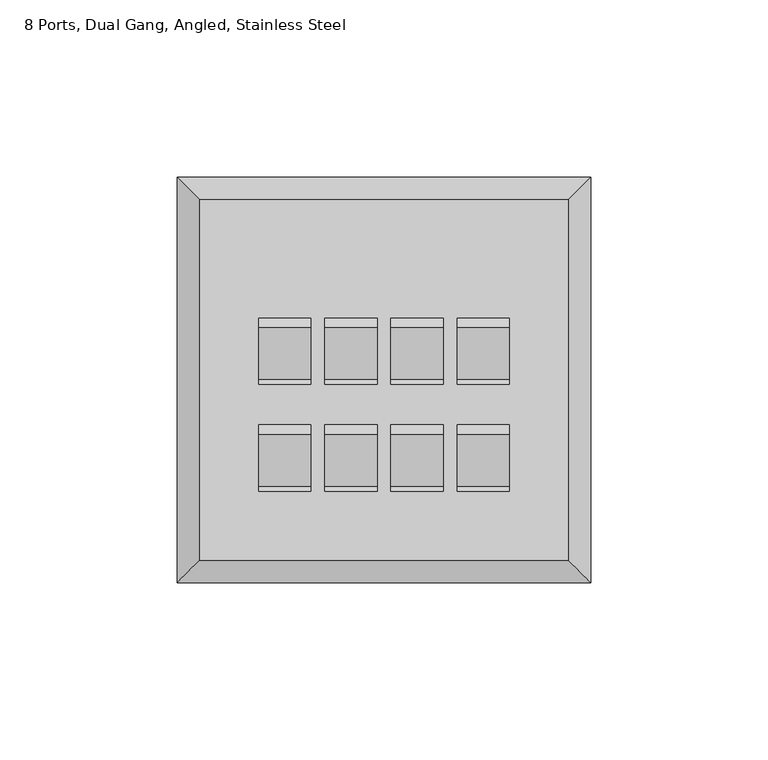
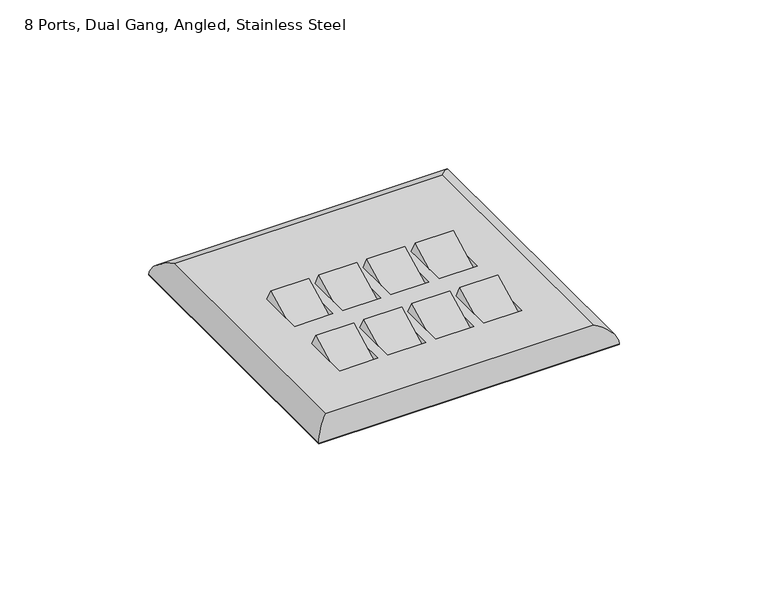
"""IFC4 building model written with IfcOpenShell, lengths in millimetres: electric appliance geometry, Data_Device-Work_Area-Leviton-QuickPort-Wallplate : 8 Ports, Dual Gang, Angled, Stainless Steel."""

from ifc_helpers import new_model, si_unit, frame, origin, origin_with_axes, place, context, project, spatial, polyline, ellipse_curve, outline, extrude, source, transform, mapped, element, save
from ifc_brep_helpers import plane_surface, cylinder_surface, advanced_brep


def electric_appliance_8_ports_dual_gang_angled_stainless_steel_fa04e0a8(model_context):
    return source(origin(), model_context, "Body", "SolidModel", [
        extrude(outline(polyline([(0.0, -16.51), (0.0, 0.0), (14.732, 0.0), (14.732, -16.51), (0.0, -16.51)])), frame((12.3444, -18.8557048, -2.12579), z_axis=(0.0, -0.4558553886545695, 0.8900538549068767), x_axis=(-1.0, 0.0, 0.0)), (0.0, 0.0, 1.0), 6.35),
        extrude(outline(polyline([(0.0, -16.51), (0.0, 0.0), (14.732, 0.0), (14.732, -16.51), (0.0, -16.51)])), frame((12.3444, 11.2505157, -2.12579), z_axis=(0.0, -0.4558553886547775, 0.8900538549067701), x_axis=(-1.0, 0.0, 0.0)), (0.0, 0.0, 1.0), 6.35),
        extrude(outline(polyline([(70.739, 0.0), (70.739, -16.51), (56.007, -16.51), (56.007, 0.0), (70.739, 0.0)])), frame((12.3444, -18.8557048, -2.12579), z_axis=(0.0, -0.4558553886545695, 0.8900538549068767), x_axis=(-1.0, 0.0, 0.0)), (0.0, 0.0, 1.0), 6.35),
        extrude(outline(polyline([(70.739, 0.0), (70.739, -16.51), (56.007, -16.51), (56.007, 0.0), (70.739, 0.0)])), frame((12.3444, 11.2505157, -2.12579), z_axis=(0.0, -0.4558553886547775, 0.8900538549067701), x_axis=(-1.0, 0.0, 0.0)), (0.0, 0.0, 1.0), 6.35),
        extrude(outline(polyline([(33.401, -16.51), (18.669, -16.51), (18.669, 0.0), (33.401, 0.0), (33.401, -16.51)])), frame((12.3444, -18.8557048, -2.12579), z_axis=(0.0, -0.4558553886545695, 0.8900538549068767), x_axis=(-1.0, 0.0, 0.0)), (0.0, 0.0, 1.0), 6.35),
        extrude(outline(polyline([(52.07, -16.51), (37.338, -16.51), (37.338, 0.0), (52.07, 0.0), (52.07, -16.51)])), frame((12.3444, -18.8557048, -2.12579), z_axis=(0.0, -0.4558553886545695, 0.8900538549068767), x_axis=(-1.0, 0.0, 0.0)), (0.0, 0.0, 1.0), 6.35),
        extrude(outline(polyline([(33.401, -16.51), (18.669, -16.51), (18.669, 0.0), (33.401, 0.0), (33.401, -16.51)])), frame((12.3444, 11.2505157, -2.12579), z_axis=(0.0, -0.4558553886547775, 0.8900538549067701), x_axis=(-1.0, 0.0, 0.0)), (0.0, 0.0, 1.0), 6.35),
        extrude(outline(polyline([(52.07, -16.51), (37.338, -16.51), (37.338, 0.0), (52.07, 0.0), (52.07, -16.51)])), frame((12.3444, 11.2505157, -2.12579), z_axis=(0.0, -0.4558553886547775, 0.8900538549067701), x_axis=(-1.0, 0.0, 0.0)), (0.0, 0.0, 1.0), 6.35),
        advanced_brep(
        [(28.9179, -42.6085, 6.35), (28.9179, 58.9915, 6.35), (-74.9681, 58.9915, 6.35), (-74.9681, -42.6085, 6.35), (-6.3246, -4.6472775, 6.35), (-6.3246, -23.1967169, 6.35), (-21.0566, -23.1967169, 6.35), (-21.0566, -4.6472775, 6.35), (-24.9936, -4.6472775, 6.35), (-24.9936, -23.1967169, 6.35), (-39.7256, -23.1967169, 6.35), (-39.7256, -4.6472775, 6.35), (-6.3246, 25.458943, 6.35), (-6.3246, 6.9095036, 6.35), (-21.0566, 6.9095036, 6.35), (-21.0566, 25.458943, 6.35), (-24.9936, 25.458943, 6.35), (-24.9936, 6.9095036, 6.35), (-39.7256, 6.9095036, 6.35), (-39.7256, 25.458943, 6.35), (12.3444, -4.6472775, 6.35), (12.3444, -23.1967169, 6.35), (-2.3876, -23.1967169, 6.35), (-2.3876, -4.6472775, 6.35), (-43.6626, -4.6472775, 6.35), (-43.6626, -23.1967169, 6.35), (-58.3946, -23.1967169, 6.35), (-58.3946, -4.6472775, 6.35), (12.3444, 25.458943, 6.35), (12.3444, 6.9095036, 6.35), (-2.3876, 6.9095036, 6.35), (-2.3876, 25.458943, 6.35), (-43.6626, 25.458943, 6.35), (-43.6626, 6.9095036, 6.35), (-58.3946, 6.9095036, 6.35), (-58.3946, 25.458943, 6.35), (35.2679, 65.3415, 0.0), (35.2679, -48.9585, 0.0), (-81.3181, -48.9585, 0.0), (-81.3181, 65.3415, 0.0), (-6.3246, -19.9444623, 0.0), (-6.3246, -1.3950229, 0.0), (-21.0566, -1.3950229, 0.0), (-21.0566, -19.9444623, 0.0), (-24.9936, -19.9444623, 0.0), (-24.9936, -1.3950229, 0.0), (-39.7256, -1.3950229, 0.0), (-39.7256, -19.9444623, 0.0), (-6.3246, 10.1617582, 0.0), (-6.3246, 28.7111975, 0.0), (-21.0566, 28.7111975, 0.0), (-21.0566, 10.1617582, 0.0), (-24.9936, 10.1617582, 0.0), (-24.9936, 28.7111975, 0.0), (-39.7256, 28.7111975, 0.0), (-39.7256, 10.1617582, 0.0), (12.3444, -19.9444623, 0.0), (12.3444, -1.3950229, 0.0), (-2.3876, -1.3950229, 0.0), (-2.3876, -19.9444623, 0.0), (-43.6626, -19.9444623, 0.0), (-43.6626, -1.3950229, 0.0), (-58.3946, -1.3950229, 0.0), (-58.3946, -19.9444623, 0.0), (12.3444, 10.1617582, 0.0), (12.3444, 28.7111975, 0.0), (-2.3876, 28.7111975, 0.0), (-2.3876, 10.1617582, 0.0), (-43.6626, 10.1617582, 0.0), (-43.6626, 28.7111975, 0.0), (-58.3946, 28.7111975, 0.0), (-58.3946, 10.1617582, 0.0), (-81.3181, 65.3415, 0.254), (35.2679, 65.3415, 0.254), (-81.3181, -48.9585, 0.254), (35.2679, -48.9585, 0.254)],
        [
            (0, 1),
            (1, 2),
            (2, 3),
            (3, 0),
            (4, 5),
            (5, 6),
            (6, 7),
            (7, 4),
            (8, 9),
            (9, 10),
            (10, 11),
            (11, 8),
            (12, 13),
            (13, 14),
            (14, 15),
            (15, 12),
            (16, 17),
            (17, 18),
            (18, 19),
            (19, 16),
            (20, 21),
            (21, 22),
            (22, 23),
            (23, 20),
            (24, 25),
            (25, 26),
            (26, 27),
            (27, 24),
            (28, 29),
            (29, 30),
            (30, 31),
            (31, 28),
            (32, 33),
            (33, 34),
            (34, 35),
            (35, 32),
            (36, 37),
            (37, 38),
            (38, 39),
            (39, 36),
            (40, 41),
            (41, 42),
            (42, 43),
            (43, 40),
            (44, 45),
            (45, 46),
            (46, 47),
            (47, 44),
            (48, 49),
            (49, 50),
            (50, 51),
            (51, 48),
            (52, 53),
            (53, 54),
            (54, 55),
            (55, 52),
            (56, 57),
            (57, 58),
            (58, 59),
            (59, 56),
            (60, 61),
            (61, 62),
            (62, 63),
            (63, 60),
            (64, 65),
            (65, 66),
            (66, 67),
            (67, 64),
            (68, 69),
            (69, 70),
            (70, 71),
            (71, 68),
            (39, 72),
            (72, 73),
            (73, 36),
            (38, 74),
            (74, 72),
            (37, 75),
            (75, 74),
            (73, 75),
            (4, 41),
            (40, 5),
            (43, 6),
            (42, 7),
            (8, 45),
            (44, 9),
            (47, 10),
            (46, 11),
            (12, 49),
            (48, 13),
            (51, 14),
            (50, 15),
            (16, 53),
            (52, 17),
            (55, 18),
            (54, 19),
            (0, 75, ellipse_curve(frame((28.9179, -42.6085, -0.0052917), z_axis=(0.7071067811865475, 0.7071067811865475, 0.0), x_axis=(0.7071067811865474, -0.7071067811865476, 0.0)), 8.9877397, 6.3552917)),
            (73, 1, ellipse_curve(frame((28.9179, 58.9915, -0.0052917), z_axis=(0.7071067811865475, -0.7071067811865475, 0.0), x_axis=(-0.7071067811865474, -0.7071067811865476, 0.0)), 8.9877397, 6.3552917)),
            (3, 74, ellipse_curve(frame((-74.9681, -42.6085, -0.0052917), z_axis=(0.7071067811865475, -0.7071067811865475, 0.0), x_axis=(-0.7071067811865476, -0.7071067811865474, 0.0)), 8.9877397, 6.3552917)),
            (2, 72, ellipse_curve(frame((-74.9681, 58.9915, -0.0052917), z_axis=(-0.7071067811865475, -0.7071067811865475, 0.0), x_axis=(-0.7071067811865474, 0.7071067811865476, 0.0)), 8.9877397, 6.3552917)),
            (20, 57),
            (56, 21),
            (59, 22),
            (58, 23),
            (24, 61),
            (60, 25),
            (63, 26),
            (62, 27),
            (28, 65),
            (64, 29),
            (67, 30),
            (66, 31),
            (32, 69),
            (68, 33),
            (71, 34),
            (70, 35),
        ],
        [
            plane_surface(frame((-81.3181, 65.3415, 6.35), z_axis=(0.0, 0.0, 1.0), x_axis=(-1.0, 0.0, 0.0))),
            plane_surface(frame((-81.3181, 65.3415, 0.0), z_axis=(0.0, 0.0, -1.0), x_axis=(1.0, 0.0, 0.0))),
            plane_surface(frame((35.2679, 65.3415, 6.35), z_axis=(0.0, 1.0, 0.0), x_axis=(0.0, 0.0, -1.0))),
            plane_surface(frame((-81.3181, 65.3415, 6.35), z_axis=(-1.0, 0.0, 0.0), x_axis=(0.0, 0.0, -1.0))),
            plane_surface(frame((-81.3181, -48.9585, 6.35), z_axis=(0.0, -1.0, 0.0), x_axis=(0.0, 0.0, -1.0))),
            plane_surface(frame((35.2679, -48.9585, 6.35), z_axis=(1.0, 0.0, 0.0), x_axis=(0.0, 0.0, -1.0))),
            plane_surface(frame((-6.3246, -0.1083612, -2.5121963), z_axis=(-1.0, 0.0, 0.0), x_axis=(0.0, -0.45585538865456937, 0.8900538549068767))),
            plane_surface(frame((-6.3246, -14.8031504, -10.0383688), z_axis=(0.0, 0.8900538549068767, 0.4558553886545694), x_axis=(0.0, -0.4558553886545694, 0.8900538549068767))),
            plane_surface(frame((-21.0566, -14.8031504, -10.0383688), z_axis=(1.0, 0.0, 0.0), x_axis=(0.0, -0.4558553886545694, 0.8900538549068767))),
            plane_surface(frame((-21.0566, -0.1083612, -2.5121963), z_axis=(0.0, -0.8900538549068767, -0.45585538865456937), x_axis=(0.0, -0.45585538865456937, 0.8900538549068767))),
            plane_surface(frame((-24.9936, -0.1083612, -2.5121963), z_axis=(-1.0, 0.0, 0.0), x_axis=(0.0, -0.45585538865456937, 0.8900538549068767))),
            plane_surface(frame((-24.9936, -14.8031504, -10.0383688), z_axis=(0.0, 0.8900538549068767, 0.4558553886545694), x_axis=(0.0, -0.4558553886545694, 0.8900538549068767))),
            plane_surface(frame((-39.7256, -14.8031504, -10.0383688), z_axis=(1.0, 0.0, 0.0), x_axis=(0.0, -0.4558553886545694, 0.8900538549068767))),
            plane_surface(frame((-39.7256, -0.1083612, -2.5121963), z_axis=(0.0, -0.8900538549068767, -0.45585538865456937), x_axis=(0.0, -0.45585538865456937, 0.8900538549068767))),
            plane_surface(frame((-6.3246, 29.9978593, -2.5121963), z_axis=(-1.0, 0.0, 0.0), x_axis=(0.0, -0.45585538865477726, 0.8900538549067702))),
            plane_surface(frame((-6.3246, 15.3030701, -10.0383688), z_axis=(0.0, 0.8900538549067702, 0.45585538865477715), x_axis=(0.0, -0.45585538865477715, 0.8900538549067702))),
            plane_surface(frame((-21.0566, 15.3030701, -10.0383688), z_axis=(1.0, 0.0, 0.0), x_axis=(0.0, -0.45585538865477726, 0.8900538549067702))),
            plane_surface(frame((-21.0566, 29.9978593, -2.5121963), z_axis=(0.0, -0.8900538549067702, -0.45585538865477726), x_axis=(0.0, -0.45585538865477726, 0.8900538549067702))),
            plane_surface(frame((-24.9936, 29.9978593, -2.5121963), z_axis=(-1.0, 0.0, 0.0), x_axis=(0.0, -0.45585538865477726, 0.8900538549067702))),
            plane_surface(frame((-24.9936, 15.3030701, -10.0383688), z_axis=(0.0, 0.8900538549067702, 0.45585538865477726), x_axis=(0.0, -0.45585538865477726, 0.8900538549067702))),
            plane_surface(frame((-39.7256, 15.3030701, -10.0383688), z_axis=(1.0, 0.0, 0.0), x_axis=(0.0, -0.45585538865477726, 0.8900538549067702))),
            plane_surface(frame((-39.7256, 29.9978593, -2.5121963), z_axis=(0.0, -0.8900538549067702, -0.45585538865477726), x_axis=(0.0, -0.45585538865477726, 0.8900538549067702))),
            cylinder_surface(frame((28.9179, 65.3415, -0.0052917), z_axis=(0.0, -1.0, 0.0), x_axis=(1.0, 0.0, 0.0)), 6.3552917),
            cylinder_surface(frame((35.2679, -42.6085, -0.0052917), z_axis=(-1.0, 0.0, 0.0), x_axis=(0.0, -1.0, 0.0)), 6.3552917),
            cylinder_surface(frame((-74.9681, -48.9585, -0.0052917), z_axis=(0.0, 1.0, 0.0), x_axis=(-1.0, 0.0, 0.0)), 6.3552917),
            cylinder_surface(frame((-81.3181, 58.9915, -0.0052917), z_axis=(1.0, 0.0, 0.0), x_axis=(0.0, 1.0, 0.0)), 6.3552917),
            plane_surface(frame((12.3444, -0.1083612, -2.5121963), z_axis=(-1.0, 0.0, 0.0), x_axis=(0.0, -0.45585538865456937, 0.8900538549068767))),
            plane_surface(frame((12.3444, -14.8031504, -10.0383688), z_axis=(0.0, 0.8900538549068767, 0.4558553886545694), x_axis=(0.0, -0.4558553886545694, 0.8900538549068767))),
            plane_surface(frame((-2.3876, -14.8031504, -10.0383688), z_axis=(1.0, 0.0, 0.0), x_axis=(0.0, -0.4558553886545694, 0.8900538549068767))),
            plane_surface(frame((-2.3876, -0.1083612, -2.5121963), z_axis=(0.0, -0.8900538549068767, -0.45585538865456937), x_axis=(0.0, -0.45585538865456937, 0.8900538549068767))),
            plane_surface(frame((-43.6626, -0.1083612, -2.5121963), z_axis=(-1.0, 0.0, 0.0), x_axis=(0.0, -0.45585538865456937, 0.8900538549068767))),
            plane_surface(frame((-43.6626, -14.8031504, -10.0383688), z_axis=(0.0, 0.8900538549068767, 0.4558553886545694), x_axis=(0.0, -0.4558553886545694, 0.8900538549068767))),
            plane_surface(frame((-58.3946, -14.8031504, -10.0383688), z_axis=(1.0, 0.0, 0.0), x_axis=(0.0, -0.4558553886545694, 0.8900538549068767))),
            plane_surface(frame((-58.3946, -0.1083612, -2.5121963), z_axis=(0.0, -0.8900538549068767, -0.45585538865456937), x_axis=(0.0, -0.45585538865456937, 0.8900538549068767))),
            plane_surface(frame((12.3444, 29.9978593, -2.5121963), z_axis=(-1.0, 0.0, 0.0), x_axis=(0.0, -0.45585538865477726, 0.8900538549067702))),
            plane_surface(frame((12.3444, 15.3030701, -10.0383688), z_axis=(0.0, 0.8900538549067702, 0.45585538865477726), x_axis=(0.0, -0.45585538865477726, 0.8900538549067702))),
            plane_surface(frame((-2.3876, 15.3030701, -10.0383688), z_axis=(1.0, 0.0, 0.0), x_axis=(0.0, -0.45585538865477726, 0.8900538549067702))),
            plane_surface(frame((-2.3876, 29.9978593, -2.5121963), z_axis=(0.0, -0.8900538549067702, -0.45585538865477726), x_axis=(0.0, -0.45585538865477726, 0.8900538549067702))),
            plane_surface(frame((-43.6626, 29.9978593, -2.5121963), z_axis=(-1.0, 0.0, 0.0), x_axis=(0.0, -0.45585538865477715, 0.8900538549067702))),
            plane_surface(frame((-43.6626, 15.3030701, -10.0383688), z_axis=(0.0, 0.8900538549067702, 0.45585538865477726), x_axis=(0.0, -0.45585538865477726, 0.8900538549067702))),
            plane_surface(frame((-58.3946, 15.3030701, -10.0383688), z_axis=(1.0, 0.0, 0.0), x_axis=(0.0, -0.45585538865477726, 0.8900538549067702))),
            plane_surface(frame((-58.3946, 29.9978593, -2.5121963), z_axis=(0.0, -0.8900538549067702, -0.45585538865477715), x_axis=(0.0, -0.45585538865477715, 0.8900538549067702))),
        ],
        [
            (0, [[1, 2, 3, 4], [5, 6, 7, 8], [9, 10, 11, 12], [13, 14, 15, 16], [17, 18, 19, 20], [21, 22, 23, 24], [25, 26, 27, 28], [29, 30, 31, 32], [33, 34, 35, 36]]),
            (1, [[37, 38, 39, 40], [41, 42, 43, 44], [45, 46, 47, 48], [49, 50, 51, 52], [53, 54, 55, 56], [57, 58, 59, 60], [61, 62, 63, 64], [65, 66, 67, 68], [69, 70, 71, 72]]),
            (2, [[-40, 73, 74, 75]]),
            (3, [[-39, 76, 77, -73]]),
            (4, [[-38, 78, 79, -76]]),
            (5, [[-37, -75, 80, -78]]),
            (6, [[81, -41, 82, -5]]),
            (7, [[-82, -44, 83, -6]]),
            (8, [[-83, -43, 84, -7]]),
            (9, [[-81, -8, -84, -42]]),
            (10, [[85, -45, 86, -9]]),
            (11, [[-86, -48, 87, -10]]),
            (12, [[-87, -47, 88, -11]]),
            (13, [[-85, -12, -88, -46]]),
            (14, [[89, -49, 90, -13]]),
            (15, [[-90, -52, 91, -14]]),
            (16, [[-91, -51, 92, -15]]),
            (17, [[-89, -16, -92, -50]]),
            (18, [[93, -53, 94, -17]]),
            (19, [[-94, -56, 95, -18]]),
            (20, [[-95, -55, 96, -19]]),
            (21, [[-93, -20, -96, -54]]),
            (22, [[97, -80, 98, -1]]),
            (23, [[-97, -4, 99, -79]]),
            (24, [[-99, -3, 100, -77]]),
            (25, [[-98, -74, -100, -2]]),
            (26, [[101, -57, 102, -21]]),
            (27, [[-102, -60, 103, -22]]),
            (28, [[-103, -59, 104, -23]]),
            (29, [[-101, -24, -104, -58]]),
            (30, [[105, -61, 106, -25]]),
            (31, [[-106, -64, 107, -26]]),
            (32, [[-107, -63, 108, -27]]),
            (33, [[-105, -28, -108, -62]]),
            (34, [[109, -65, 110, -29]]),
            (35, [[-110, -68, 111, -30]]),
            (36, [[-111, -67, 112, -31]]),
            (37, [[-109, -32, -112, -66]]),
            (38, [[113, -69, 114, -33]]),
            (39, [[-114, -72, 115, -34]]),
            (40, [[-115, -71, 116, -35]]),
            (41, [[-113, -36, -116, -70]]),
        ],
    ),
        extrude(outline(polyline([(35.0139, 65.0875), (35.0139, -48.7045), (-81.0641, -48.7045), (-81.0641, 65.0875), (35.0139, 65.0875)])), origin_with_axes(), (0.0, 0.0, 1.0), 0.254),
    ])


if __name__ == "__main__":
    model = new_model("IFC4")
    model_context = context("Model", 3, world=origin())
    ifc_project = project(units=[si_unit("LENGTHUNIT", "METRE", prefix="MILLI")], contexts=[model_context])
    site = spatial("IfcSite", under=ifc_project)
    building = spatial("IfcBuilding", under=site)
    placement = place(None, origin())
    electric_appliance_8_ports_dual_gang_angled_stainless_steel_shape = electric_appliance_8_ports_dual_gang_angled_stainless_steel_fa04e0a8(model_context)
    element("IfcElectricAppliance", 1, ObjectType="Data_Device-Work_Area-Leviton-QuickPort-Wallplate : 8 Ports, Dual Gang, Angled, Stainless Steel", at=placement, inside=building, context=model_context, shape_type="MappedRepresentation", body=[
        mapped(electric_appliance_8_ports_dual_gang_angled_stainless_steel_shape, transform((0.0, 0.0, 0.0), x_axis=(1.0, 0.0, 0.0), y_axis=(0.0, 1.0, 0.0), z_axis=(0.0, 0.0, 1.0))),
    ])
    save(model, "model.ifc")
